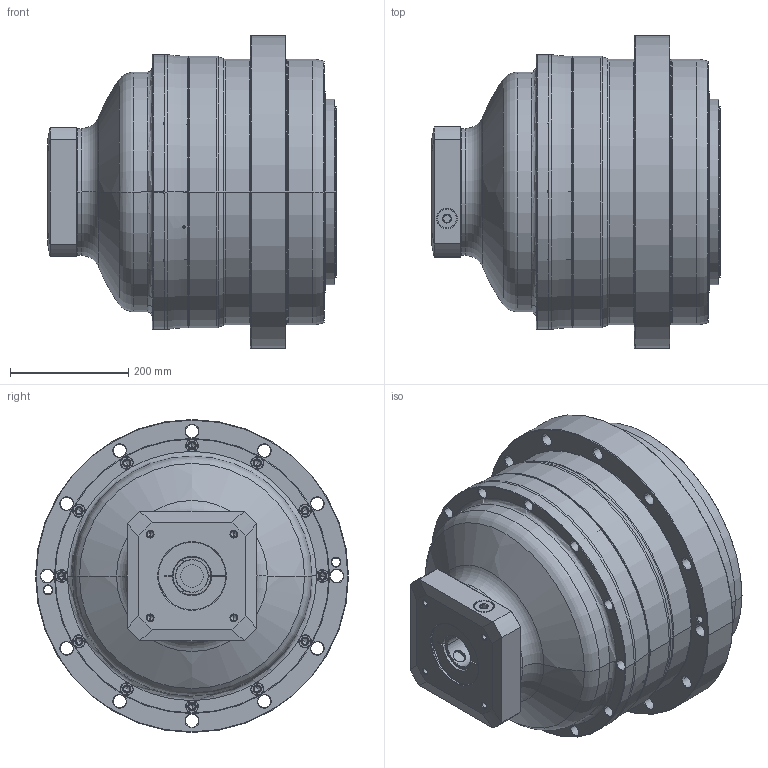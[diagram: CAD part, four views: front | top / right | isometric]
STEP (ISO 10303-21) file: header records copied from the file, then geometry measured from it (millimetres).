
FILE_DESCRIPTION((''),'2;1');
FILE_NAME('AH450_2ST_55-P0409C50101_ASM','2016-08-03T',('d01943'),(''),'PRO/ENGINEER BY PARAMETRIC TECHNOLOGY CORPORATION, 2008410','PRO/ENGINEER BY PARAMETRIC TECHNOLOGY CORPORATION, 2008410','');
FILE_SCHEMA(('CONFIG_CONTROL_DESIGN'));
Length unit declared in the file: millimetre
Products named in the file (8): P0276200003; P0357200003; P1339200301; P0409C50101; P0503C00016; P0962204001; 21711426021; AH450_2ST_55-P0409C50101_ASM
Assembly tree (7 placements, depth 2):
  AH450_2ST_55-P0409C50101_ASM
    P0276200003
    P0357200003
    P1339200301
    P0409C50101
    P0503C00016
    P0962204001
    21711426021
Bounding box: 488 x 530 x 530 mm (x, y, z)
Volume: 53560835.5 mm3; surface area: 2055954.5 mm2
Topology: 8 solids, 8 shells, 822 faces, 1867 edges, 1078 vertices
Faces by surface type: cylinder 296, cone 282, torus 112, plane 104, bspline 28
Entity records: 27946 total; most frequent: CARTESIAN_POINT 9008, DIRECTION 4333, ORIENTED_EDGE 3630, AXIS2_PLACEMENT_3D 1838, EDGE_CURVE 1815, VERTEX_POINT 1078, CIRCLE 1029, EDGE_LOOP 983
